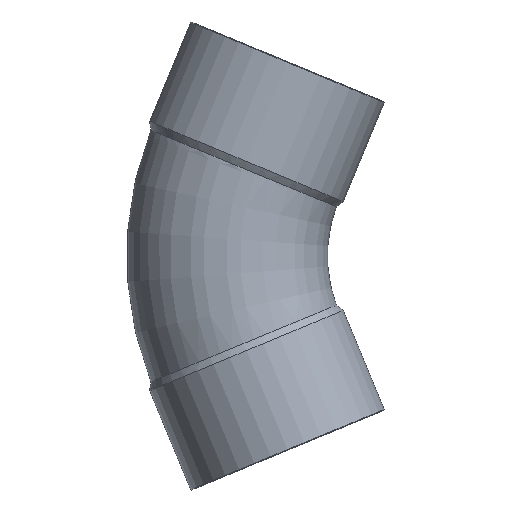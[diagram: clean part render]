
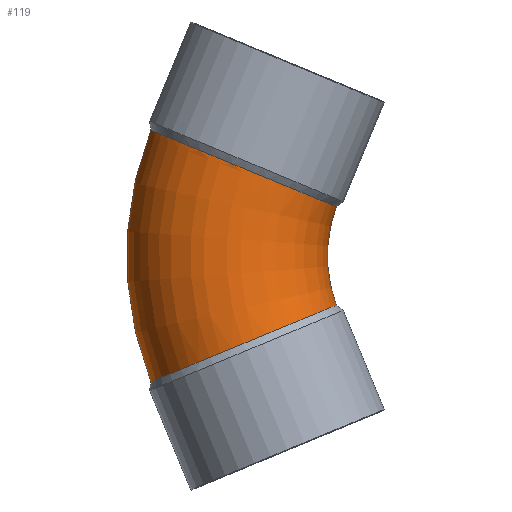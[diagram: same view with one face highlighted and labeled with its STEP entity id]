
A CAD part, front view. The second image highlights one B-rep face of the part: STEP entity #119.
In plain terms, the highlighted toroidal (fillet/blend) face has major radius 76.8 mm and minor radius 32 mm.
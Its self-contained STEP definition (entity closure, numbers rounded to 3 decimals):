
#44=CARTESIAN_POINT('',(4.435,0.,0.));
#45=DIRECTION('',(0.,1.0,0.));
#46=DIRECTION('',(-0.383,0.,0.924));
#47=AXIS2_PLACEMENT_3D('',#44,#45,#46);
#48=TOROIDAL_SURFACE('',#47,76.8,32.0);
#49=CARTESIAN_POINT('',(-96.697,0.,-40.123));
#50=VERTEX_POINT('',#49);
#51=CARTESIAN_POINT('',(-96.697,0.,40.123));
#52=VERTEX_POINT('',#51);
#53=CARTESIAN_POINT('',(4.435,0.,0.));
#54=DIRECTION('',(0.0,1.0,0.0));
#55=DIRECTION('',(0.0,0.0,1.0));
#56=AXIS2_PLACEMENT_3D('',#53,#54,#55);
#57=CIRCLE('',#56,108.8);
#58=EDGE_CURVE('',#50,#52,#57,.T.);
#59=ORIENTED_EDGE('',*,*,#58,.F.);
#60=CARTESIAN_POINT('',(-37.528,0.,-15.689));
#61=VERTEX_POINT('',#60);
#62=CARTESIAN_POINT('',(-96.697,0.,-40.123));
#63=CARTESIAN_POINT('',(-96.697,-2.359,-40.123));
#64=CARTESIAN_POINT('',(-96.456,-4.711,-40.023));
#65=CARTESIAN_POINT('',(-95.5,-9.314,-39.628));
#66=CARTESIAN_POINT('',(-94.788,-11.552,-39.333));
#67=CARTESIAN_POINT('',(-92.209,-17.451,-38.267));
#68=CARTESIAN_POINT('',(-89.898,-20.834,-37.311));
#69=CARTESIAN_POINT('',(-84.208,-26.45,-34.958));
#70=CARTESIAN_POINT('',(-80.882,-28.63,-33.583));
#71=CARTESIAN_POINT('',(-73.645,-31.489,-30.591));
#72=CARTESIAN_POINT('',(-69.803,-32.139,-29.003));
#73=CARTESIAN_POINT('',(-62.103,-31.811,-25.822));
#74=CARTESIAN_POINT('',(-58.319,-30.834,-24.26));
#75=CARTESIAN_POINT('',(-51.311,-27.367,-21.367));
#76=CARTESIAN_POINT('',(-48.152,-24.91,-20.065));
#77=CARTESIAN_POINT('',(-42.886,-18.826,-17.894));
#78=CARTESIAN_POINT('',(-40.827,-15.259,-17.046));
#79=CARTESIAN_POINT('',(-38.182,-7.732,-15.957));
#80=CARTESIAN_POINT('',(-37.528,-3.881,-15.689));
#81=CARTESIAN_POINT('',(-37.528,0.,-15.689));
#82=B_SPLINE_CURVE_WITH_KNOTS('',3,(#62,#63,#64,#65,#66,#67,#68,#69,#70,#71,#72,#73,#74,#75,#76,#77,#78,#79,#80,#81),.UNSPECIFIED.,.F.,.U.,(4,2,2,2,2,2,2,2,2,4),(-20.169,-19.461,-18.753,-17.503,-16.253,-15.002,-13.752,-12.501,-11.251,-10.086),.UNSPECIFIED.);
#83=EDGE_CURVE('',#50,#61,#82,.T.);
#84=ORIENTED_EDGE('',*,*,#83,.T.);
#85=CARTESIAN_POINT('',(-37.528,0.,15.689));
#86=VERTEX_POINT('',#85);
#87=CARTESIAN_POINT('',(4.435,0.,0.));
#88=DIRECTION('',(0.0,-1.0,0.0));
#89=DIRECTION('',(0.0,0.0,1.0));
#90=AXIS2_PLACEMENT_3D('',#87,#88,#89);
#91=CIRCLE('',#90,44.8);
#92=EDGE_CURVE('',#86,#61,#91,.T.);
#93=ORIENTED_EDGE('',*,*,#92,.F.);
#94=CARTESIAN_POINT('',(-37.528,0.,15.689));
#95=CARTESIAN_POINT('',(-37.528,-0.279,15.689));
#96=CARTESIAN_POINT('',(-37.532,-0.558,15.69));
#97=CARTESIAN_POINT('',(-37.639,-5.002,15.734));
#98=CARTESIAN_POINT('',(-38.492,-9.105,16.085));
#99=CARTESIAN_POINT('',(-41.603,-16.73,17.366));
#100=CARTESIAN_POINT('',(-43.834,-20.177,18.285));
#101=CARTESIAN_POINT('',(-49.391,-25.955,20.575));
#102=CARTESIAN_POINT('',(-52.664,-28.229,21.926));
#103=CARTESIAN_POINT('',(-59.832,-31.292,24.884));
#104=CARTESIAN_POINT('',(-63.658,-32.052,26.464));
#105=CARTESIAN_POINT('',(-71.362,-31.942,29.647));
#106=CARTESIAN_POINT('',(-75.167,-31.074,31.22));
#107=CARTESIAN_POINT('',(-82.253,-27.808,34.149));
#108=CARTESIAN_POINT('',(-85.468,-25.443,35.479));
#109=CARTESIAN_POINT('',(-90.878,-19.511,37.716));
#110=CARTESIAN_POINT('',(-93.021,-16.002,38.602));
#111=CARTESIAN_POINT('',(-95.945,-8.293,39.812));
#112=CARTESIAN_POINT('',(-96.697,-4.166,40.123));
#113=CARTESIAN_POINT('',(-96.697,0.,40.123));
#114=B_SPLINE_CURVE_WITH_KNOTS('',3,(#94,#95,#96,#97,#98,#99,#100,#101,#102,#103,#104,#105,#106,#107,#108,#109,#110,#111,#112,#113),.UNSPECIFIED.,.F.,.U.,(4,2,2,2,2,2,2,2,2,4),(-10.086,-10.002,-8.752,-7.502,-6.251,-5.,-3.75,-2.5,-1.25,0.0),.UNSPECIFIED.);
#115=EDGE_CURVE('',#86,#52,#114,.T.);
#116=ORIENTED_EDGE('',*,*,#115,.T.);
#117=EDGE_LOOP('',(#59,#84,#93,#116));
#118=FACE_OUTER_BOUND('',#117,.T.);
#119=ADVANCED_FACE('',(#118),#48,.T.);
